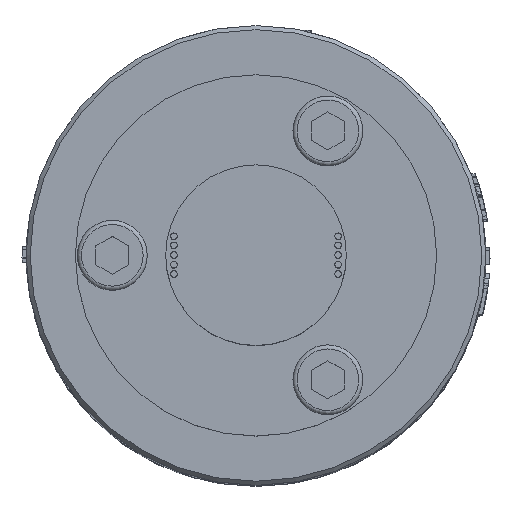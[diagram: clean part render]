
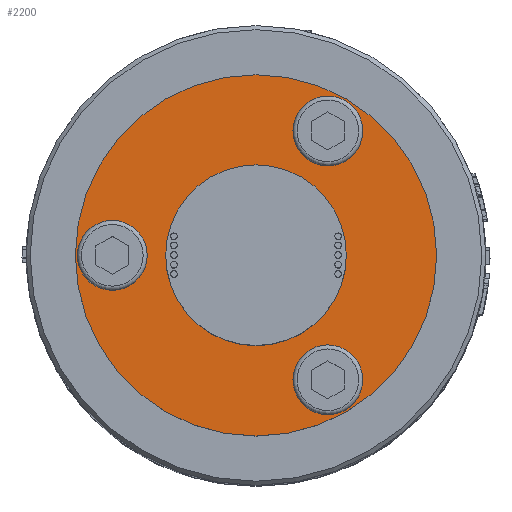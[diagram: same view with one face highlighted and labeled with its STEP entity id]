
A CAD part, top view. The second image highlights one B-rep face of the part: STEP entity #2200.
In plain terms, the highlighted planar face has unit normal (0, 0, 1).
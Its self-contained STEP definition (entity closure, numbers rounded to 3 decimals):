
#471=FACE_BOUND('',#4729,.T.);
#472=FACE_BOUND('',#4730,.T.);
#473=FACE_BOUND('',#4731,.T.);
#474=FACE_BOUND('',#4732,.T.);
#475=FACE_BOUND('',#4733,.T.);
#1174=CIRCLE('',#18350,4.25);
#1176=CIRCLE('',#18361,4.25);
#1179=CIRCLE('',#18374,4.25);
#1203=CIRCLE('',#18431,11.);
#1204=CIRCLE('',#18433,22.);
#2200=ADVANCED_FACE('',(#471,#472,#473,#474,#475),#2694,.T.);
#2694=PLANE('',#18434);
#4729=EDGE_LOOP('',(#11374));
#4730=EDGE_LOOP('',(#11375));
#4731=EDGE_LOOP('',(#11376));
#4732=EDGE_LOOP('',(#11377));
#4733=EDGE_LOOP('',(#11378));
#11374=ORIENTED_EDGE('',*,*,#15546,.F.);
#11375=ORIENTED_EDGE('',*,*,#15560,.F.);
#11376=ORIENTED_EDGE('',*,*,#15581,.F.);
#11377=ORIENTED_EDGE('',*,*,#15624,.T.);
#11378=ORIENTED_EDGE('',*,*,#15623,.F.);
#13066=VERTEX_POINT('',#36241);
#13074=VERTEX_POINT('',#36272);
#13089=VERTEX_POINT('',#36318);
#13125=VERTEX_POINT('',#36429);
#13126=VERTEX_POINT('',#36432);
#15546=EDGE_CURVE('',#13066,#13066,#1174,.T.);
#15560=EDGE_CURVE('',#13074,#13074,#1176,.T.);
#15581=EDGE_CURVE('',#13089,#13089,#1179,.T.);
#15623=EDGE_CURVE('',#13125,#13125,#1203,.T.);
#15624=EDGE_CURVE('',#13126,#13126,#1204,.T.);
#18350=AXIS2_PLACEMENT_3D('',#36240,#20969,#20970);
#18361=AXIS2_PLACEMENT_3D('',#36271,#21003,#21004);
#18374=AXIS2_PLACEMENT_3D('',#36317,#21047,#21048);
#18431=AXIS2_PLACEMENT_3D('',#36428,#21179,#21180);
#18433=AXIS2_PLACEMENT_3D('',#36431,#21183,#21184);
#18434=AXIS2_PLACEMENT_3D('',#36433,#21185,#21186);
#20969=DIRECTION('',(0.,0.,1.));
#20970=DIRECTION('',(-0.866,0.5,0.));
#21003=DIRECTION('',(0.,0.,1.));
#21004=DIRECTION('',(-0.866,0.5,0.));
#21047=DIRECTION('',(0.,0.,1.));
#21048=DIRECTION('',(-0.866,0.5,0.));
#21179=DIRECTION('',(0.,0.,1.));
#21180=DIRECTION('',(1.,0.,0.));
#21183=DIRECTION('',(0.,0.,1.));
#21184=DIRECTION('',(1.,0.,0.));
#21185=DIRECTION('',(0.,0.,1.));
#21186=DIRECTION('',(-1.,0.,0.));
#36240=CARTESIAN_POINT('',(8.75,-15.155,100.5));
#36241=CARTESIAN_POINT('',(5.069,-13.03,100.5));
#36271=CARTESIAN_POINT('',(8.75,15.155,100.5));
#36272=CARTESIAN_POINT('',(5.069,17.28,100.5));
#36317=CARTESIAN_POINT('',(-17.5,0.,100.5));
#36318=CARTESIAN_POINT('',(-21.181,2.125,100.5));
#36428=CARTESIAN_POINT('',(0.,0.,100.5));
#36429=CARTESIAN_POINT('',(11.,0.,100.5));
#36431=CARTESIAN_POINT('',(0.,0.,100.5));
#36432=CARTESIAN_POINT('',(22.,0.,100.5));
#36433=CARTESIAN_POINT('',(0.,0.,100.5));
